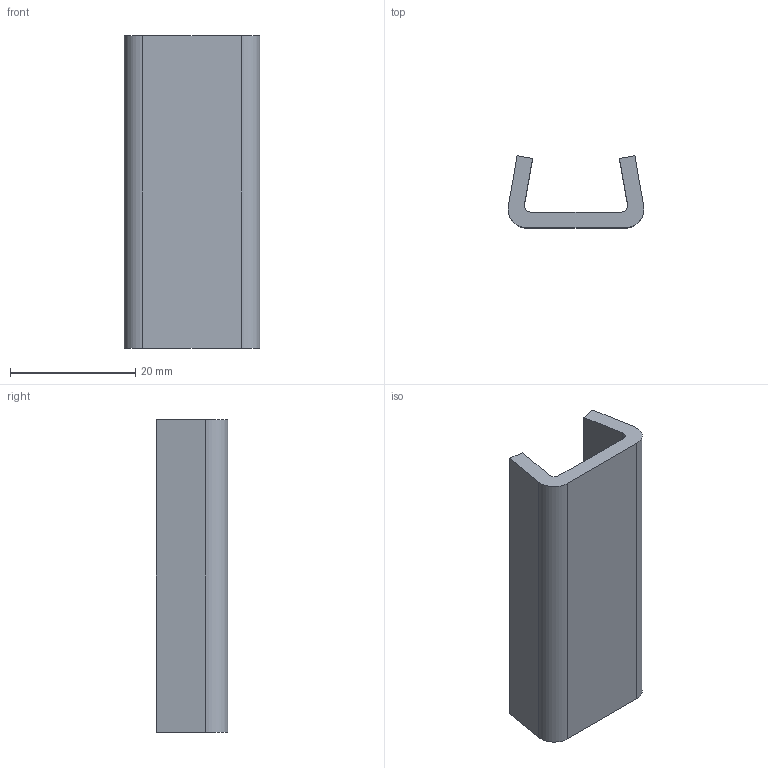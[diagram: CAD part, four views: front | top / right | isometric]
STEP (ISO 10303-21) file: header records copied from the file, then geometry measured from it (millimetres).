
FILE_DESCRIPTION(/* description */ ('Coupling SG- SP13120'),/* implementation_level */ '2;1');
FILE_NAME(/* name */ 'C:\Users\apromt\Desktop\tekeningen\stp\SG1400150001.stp',/* time_stamp */ '2021-11-11T10:46:30+01:00',/* author */ ('Rdgreef'),/* organization */ ('BCK Holland b.v.'),/* preprocessor_version */ 'ST-DEVELOPER v18.1',/* originating_system */ 'Autodesk Inventor 2021',/* authorisation */ '');
FILE_SCHEMA (('AUTOMOTIVE_DESIGN { 1 0 10303 214 3 1 1 }'));
Length unit declared in the file: millimetre
Products named in the file (1): SG1400150001
Bounding box: 21.71 x 11.5 x 50 mm (x, y, z)
Volume: 4776.7 mm3; surface area: 4211.4 mm2
Topology: 1 solids, 1 shells, 14 faces, 36 edges, 24 vertices
Faces by surface type: plane 10, cylinder 4
Entity records: 469 total; most frequent: CARTESIAN_POINT 75, DIRECTION 74, ORIENTED_EDGE 72, EDGE_CURVE 36, LINE 28, VECTOR 28, VERTEX_POINT 24, AXIS2_PLACEMENT_3D 23
